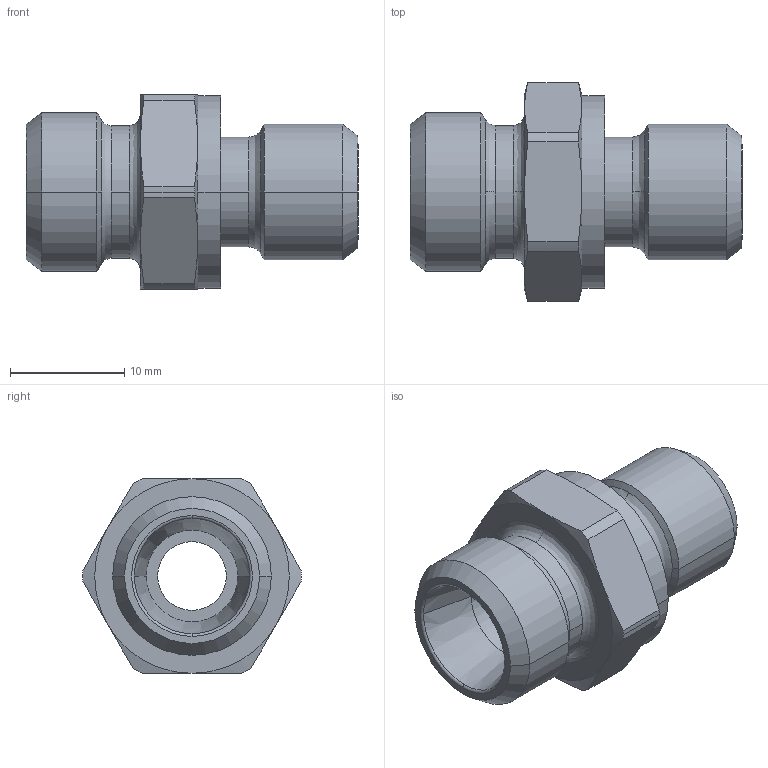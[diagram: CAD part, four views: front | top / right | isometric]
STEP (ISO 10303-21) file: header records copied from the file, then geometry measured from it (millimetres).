
FILE_DESCRIPTION((''),'2;1');
FILE_NAME('100605.stp','2007-10-30T15:01:22',(''),(''),'AutoCAD STEP 2000i','AutoCAD 2000i',', , ');
FILE_SCHEMA(('CONFIG_CONTROL_DESIGN'));
Length unit declared in the file: millimetre
Products named in the file (2): 100605.0; CHIAVE SMUSSATA#0
Assembly tree (1 placements, depth 2):
  100605.0
    CHIAVE SMUSSATA#0
Bounding box: 29 x 19.1 x 17 mm (x, y, z)
Volume: 3001.5 mm3; surface area: 2361 mm2
Topology: 1 solids, 1 shells, 75 faces, 185 edges, 117 vertices
Faces by surface type: cylinder 24, cone 24, plane 13, bspline 12, torus 2
Entity records: 2835 total; most frequent: CARTESIAN_POINT 955, DIRECTION 410, ORIENTED_EDGE 370, EDGE_CURVE 185, AXIS2_PLACEMENT_3D 184, CIRCLE 119, VERTEX_POINT 117, EDGE_LOOP 82
